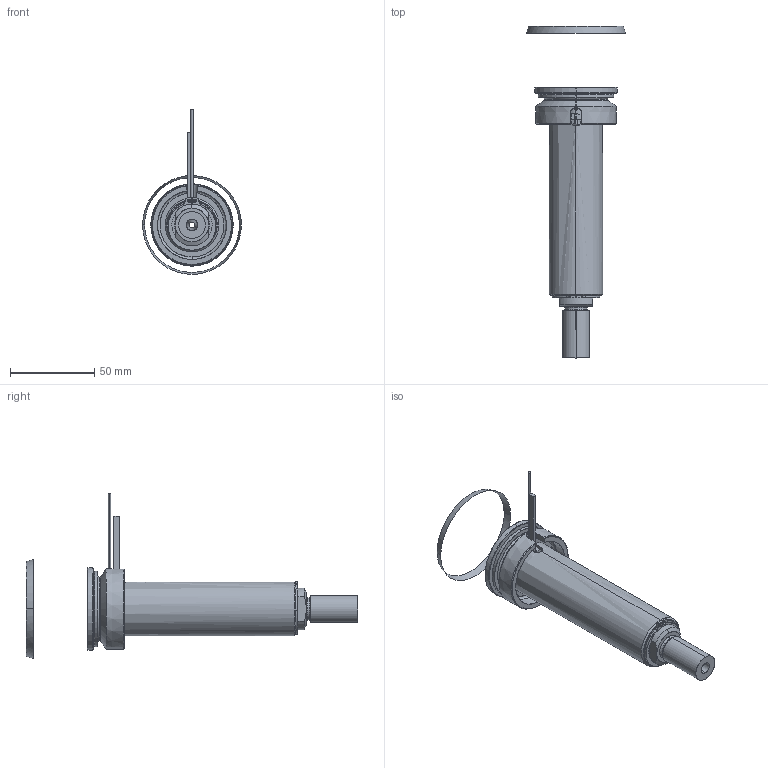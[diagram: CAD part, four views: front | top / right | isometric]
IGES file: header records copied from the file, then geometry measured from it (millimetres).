
Start section: SolidWorks IGES file using analytic representation for surfaces
Global section: file name: C:\Documents and Settings\ws-20\Desktop\TEMPORANEA\UGBE5003-S-A-P-3 [Ød-3.5 P-25 ØC-12].IGS; native system: SolidWorks 2012; preprocessor: SolidWorks 2012; author: ws-20; date: 120306.145700; units: millimetre
Bounding box: 58.79 x 197.44 x 98.01 mm (x, y, z)
Surface area: 53052.4 mm2 (no closed solid volume)
Topology: 0 solids, 0 shells, 109 faces, 2098 edges, 2098 vertices
Faces by surface type: revolution 67, bspline 42
